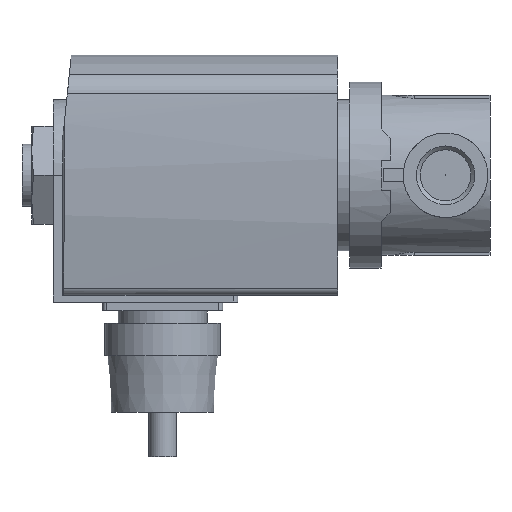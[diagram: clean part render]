
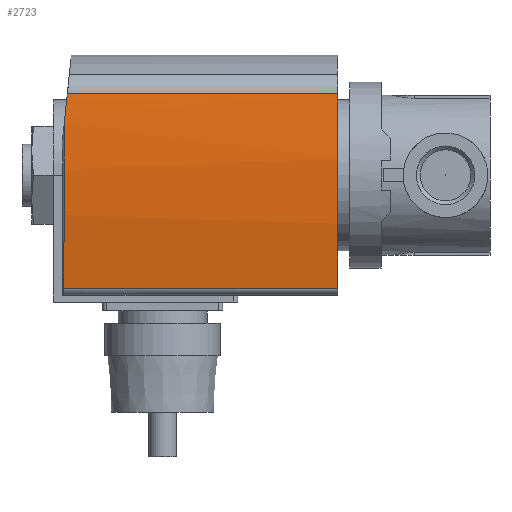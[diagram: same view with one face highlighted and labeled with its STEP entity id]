
A CAD part, left-side view. The second image highlights one B-rep face of the part: STEP entity #2723.
In plain terms, the highlighted cylindrical face has radius 130 mm (diameter 260 mm), a partial arc.
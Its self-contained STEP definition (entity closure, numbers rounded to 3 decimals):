
#63=ELLIPSE('',#2931,130.497,130.);
#64=ELLIPSE('',#2934,130.716,130.);
#237=LINE('',#4029,#356);
#242=LINE('',#4051,#361);
#356=VECTOR('',#3386,1000.);
#361=VECTOR('',#3409,1000.);
#702=ORIENTED_EDGE('',*,*,#1070,.F.);
#703=ORIENTED_EDGE('',*,*,#1062,.T.);
#704=ORIENTED_EDGE('',*,*,#1072,.T.);
#705=ORIENTED_EDGE('',*,*,#1073,.F.);
#706=ORIENTED_EDGE('',*,*,#1074,.F.);
#1062=EDGE_CURVE('',#1281,#1280,#237,.T.);
#1070=EDGE_CURVE('',#1281,#1287,#63,.T.);
#1072=EDGE_CURVE('',#1280,#1288,#1398,.T.);
#1073=EDGE_CURVE('',#1289,#1288,#242,.T.);
#1074=EDGE_CURVE('',#1287,#1289,#64,.T.);
#1280=VERTEX_POINT('',#4028);
#1281=VERTEX_POINT('',#4030);
#1287=VERTEX_POINT('',#4046);
#1288=VERTEX_POINT('',#4050);
#1289=VERTEX_POINT('',#4052);
#1398=CIRCLE('',#2933,130.);
#1537=EDGE_LOOP('',(#702,#703,#704,#705,#706));
#1703=FACE_BOUND('',#1537,.T.);
#1783=CYLINDRICAL_SURFACE('',#2932,130.);
#2723=ADVANCED_FACE('',(#1703),#1783,.T.);
#2931=AXIS2_PLACEMENT_3D('',#4045,#3402,#3403);
#2932=AXIS2_PLACEMENT_3D('',#4048,#3405,#3406);
#2933=AXIS2_PLACEMENT_3D('',#4049,#3407,#3408);
#2934=AXIS2_PLACEMENT_3D('',#4053,#3410,#3411);
#3386=DIRECTION('',(0.,-1.,0.));
#3402=DIRECTION('',(0.,0.996,0.087));
#3403=DIRECTION('',(0.,-0.087,0.996));
#3405=DIRECTION('',(0.,-1.,0.));
#3406=DIRECTION('',(0.,0.,-1.));
#3407=DIRECTION('',(0.,1.,0.));
#3408=DIRECTION('',(1.,0.,0.));
#3409=DIRECTION('',(0.,-1.,0.));
#3410=DIRECTION('',(0.105,0.995,0.));
#3411=DIRECTION('',(0.995,-0.105,0.));
#4028=CARTESIAN_POINT('',(-25.391,-39.4,18.646));
#4029=CARTESIAN_POINT('',(-25.391,22.6,18.646));
#4030=CARTESIAN_POINT('',(-25.391,22.281,18.646));
#4045=CARTESIAN_POINT('',(0.,33.435,-108.85));
#4046=CARTESIAN_POINT('',(11.681,22.108,20.624));
#4048=CARTESIAN_POINT('',(0.,22.6,-108.85));
#4049=CARTESIAN_POINT('',(0.,-39.4,-108.85));
#4050=CARTESIAN_POINT('',(18.286,-39.4,19.857));
#4051=CARTESIAN_POINT('',(18.286,22.6,19.857));
#4052=CARTESIAN_POINT('',(18.286,21.414,19.857));
#4053=CARTESIAN_POINT('',(0.,23.336,-108.85));
